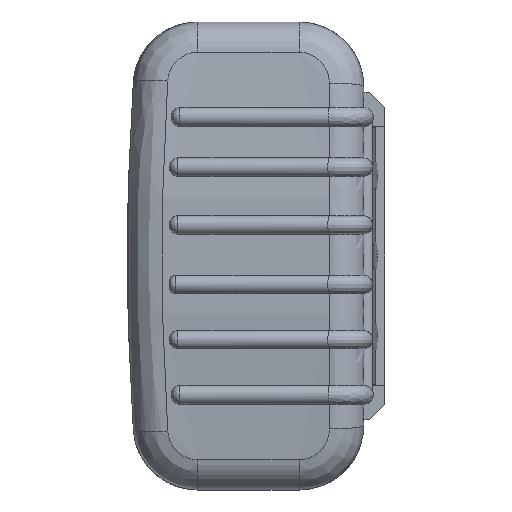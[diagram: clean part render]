
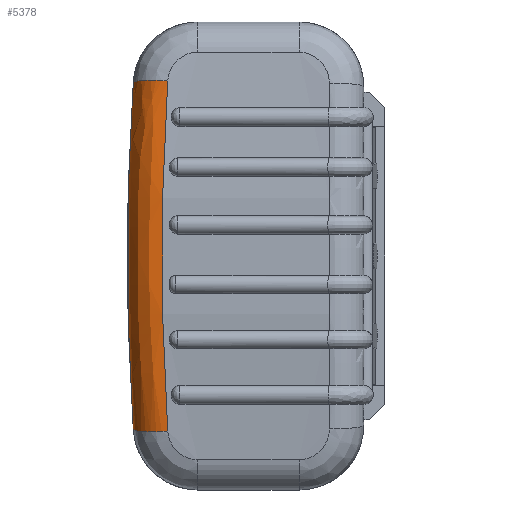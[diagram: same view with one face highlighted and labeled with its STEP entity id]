
A CAD part, left-side view. The second image highlights one B-rep face of the part: STEP entity #5378.
In plain terms, the highlighted free-form (B-spline) face has degree [3, 2] with [6, 3] control points.
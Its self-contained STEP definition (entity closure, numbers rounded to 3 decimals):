
#1044 = AXIS2_PLACEMENT_3D ( 'NONE', #2788, #24007, #5949 ) ;
#1473 = CARTESIAN_POINT ( 'NONE',  ( 89.935, 54.311, -27.357 ) ) ;
#1520 = CARTESIAN_POINT ( 'NONE',  ( 81.965, 54.328, -26.823 ) ) ;
#1606 = CARTESIAN_POINT ( 'NONE',  ( 88.505, 45.446, -40.548 ) ) ;
#1626 = EDGE_CURVE ( 'NONE', #34814, #19353, #29477, .T. ) ;
#2545 = ORIENTED_EDGE ( 'NONE', *, *, #34587, .F. ) ;
#2788 = CARTESIAN_POINT ( 'NONE',  ( 80.55, 45.446, -39.698 ) ) ;
#4172 = CARTESIAN_POINT ( 'NONE',  ( 80.55, 53.428, 40.234 ) ) ;
#4308 = CARTESIAN_POINT ( 'NONE',  ( 89.95, 46.334, -27.032 ) ) ;
#5378 = ADVANCED_FACE ( 'NONE', ( #11125 ), #38544, .T. ) ;
#5949 = DIRECTION ( 'NONE',  ( 0.994, 0., -0.106 ) ) ;
#7666 = ORIENTED_EDGE ( 'NONE', *, *, #20020, .T. ) ;
#10390 = CARTESIAN_POINT ( 'NONE',  ( 83.368, 55.225, 0. ) ) ;
#10533 = CARTESIAN_POINT ( 'NONE',  ( 91.383, 47.219, 0. ) ) ;
#11125 = FACE_OUTER_BOUND ( 'NONE', #38227, .T. ) ;
#13418 = CARTESIAN_POINT ( 'NONE',  ( 80.55, 53.428, -40.234 ) ) ;
#13544 = CARTESIAN_POINT ( 'NONE',  ( 88.505, 45.446, 40.548 ) ) ;
#14436 = CARTESIAN_POINT ( 'NONE',  ( 88.505, 45.446, 40.548 ) ) ;
#14517 = CARTESIAN_POINT ( 'NONE',  ( 88.449, 53.371, 41.074 ) ) ;
#14564 = CARTESIAN_POINT ( 'NONE',  ( 80.55, 53.428, 40.234 ) ) ;
#14634 = CARTESIAN_POINT ( 'NONE',  ( 89.95, 46.334, 27.032 ) ) ;
#14818 = CARTESIAN_POINT ( 'NONE',  ( 90.667, 54.777, 13.695 ) ) ;
#14950 = CARTESIAN_POINT ( 'NONE',  ( 82.667, 54.777, 13.411 ) ) ;
#15029 = CARTESIAN_POINT ( 'NONE',  ( 90.667, 46.777, -13.516 ) ) ;
#15079 = CARTESIAN_POINT ( 'NONE',  ( 90.667, 54.777, -13.695 ) ) ;
#15190 = CARTESIAN_POINT ( 'NONE',  ( 82.667, 54.777, -13.411 ) ) ;
#15277 = CARTESIAN_POINT ( 'NONE',  ( 89.95, 46.334, -27.032 ) ) ;
#15581 = CARTESIAN_POINT ( 'NONE',  ( 80.55, 53.428, -40.234 ) ) ;
#15661 = CARTESIAN_POINT ( 'NONE',  ( 88.449, 53.371, -41.074 ) ) ;
#15792 = B_SPLINE_CURVE_WITH_KNOTS ( 'NONE', 3,
 ( #25448, #4308, #10533, #31419, #13544 ),
 .UNSPECIFIED., .F., .F.,
 ( 4, 1, 4 ),
 ( 0., 0.041, 0.081 ),
 .UNSPECIFIED. ) ;
#17342 = VERTEX_POINT ( 'NONE', #26790 ) ;
#19353 = VERTEX_POINT ( 'NONE', #27704 ) ;
#20020 = EDGE_CURVE ( 'NONE', #23182, #17342, #37745, .T. ) ;
#21370 = EDGE_CURVE ( 'NONE', #23182, #34814, #15792, .T. ) ;
#23182 = VERTEX_POINT ( 'NONE', #24385 ) ;
#23778 = CARTESIAN_POINT ( 'NONE',  ( 89.935, 54.311, 27.357 ) ) ;
#23825 = CARTESIAN_POINT ( 'NONE',  ( 81.965, 54.328, 26.823 ) ) ;
#23902 = CARTESIAN_POINT ( 'NONE',  ( 90.667, 46.777, 13.516 ) ) ;
#24007 = DIRECTION ( 'NONE',  ( 0.106, 0.067, 0.992 ) ) ;
#24347 = DIRECTION ( 'NONE',  ( 0.994, 0., 0.106 ) ) ;
#24385 = CARTESIAN_POINT ( 'NONE',  ( 88.505, 45.446, -40.548 ) ) ;
#24443 = DIRECTION ( 'NONE',  ( -0.106, -0.067, 0.992 ) ) ;
#24481 = CARTESIAN_POINT ( 'NONE',  ( 80.55, 45.446, 39.698 ) ) ;
#25448 = CARTESIAN_POINT ( 'NONE',  ( 88.505, 45.446, -40.548 ) ) ;
#26790 = CARTESIAN_POINT ( 'NONE',  ( 80.55, 53.428, -40.234 ) ) ;
#27129 = ORIENTED_EDGE ( 'NONE', *, *, #21370, .F. ) ;
#27324 = AXIS2_PLACEMENT_3D ( 'NONE', #24481, #24443, #24347 ) ;
#27704 = CARTESIAN_POINT ( 'NONE',  ( 80.55, 53.428, 40.234 ) ) ;
#29477 = CIRCLE ( 'NONE', #27324, 8. ) ;
#30125 = CARTESIAN_POINT ( 'NONE',  ( 88.505, 45.446, 40.548 ) ) ;
#31294 = CARTESIAN_POINT ( 'NONE',  ( 81.965, 54.328, -26.822 ) ) ;
#31419 = CARTESIAN_POINT ( 'NONE',  ( 89.95, 46.334, 27.032 ) ) ;
#34161 = CARTESIAN_POINT ( 'NONE',  ( 81.965, 54.328, 26.822 ) ) ;
#34587 = EDGE_CURVE ( 'NONE', #19353, #17342, #38066, .T. ) ;
#34814 = VERTEX_POINT ( 'NONE', #30125 ) ;
#36559 = ORIENTED_EDGE ( 'NONE', *, *, #1626, .F. ) ;
#37745 = CIRCLE ( 'NONE', #1044, 8. ) ;
#38066 = B_SPLINE_CURVE_WITH_KNOTS ( 'NONE', 3,
 ( #4172, #34161, #10390, #31294, #13418 ),
 .UNSPECIFIED., .F., .F.,
 ( 4, 1, 4 ),
 ( 0., 0.04, 0.08 ),
 .UNSPECIFIED. ) ;
#38227 = EDGE_LOOP ( 'NONE', ( #7666, #2545, #36559, #27129 ) ) ;
#38544 =( BOUNDED_SURFACE ( )  B_SPLINE_SURFACE ( 3, 2, ( 
 ( #15581, #15661, #1606 ),
 ( #1520, #1473, #15277 ),
 ( #15190, #15079, #15029 ),
 ( #14950, #14818, #23902 ),
 ( #23825, #23778, #14634 ),
 ( #14564, #14517, #14436 ) ),
 .UNSPECIFIED., .F., .F., .F. ) 
 B_SPLINE_SURFACE_WITH_KNOTS ( ( 4, 2, 4 ),
 ( 3, 3 ),
 ( 0., 0.04, 0.079 ),
 ( 0., 1. ),
 .UNSPECIFIED. ) 
 GEOMETRIC_REPRESENTATION_ITEM ( )  RATIONAL_B_SPLINE_SURFACE ( (
 ( 1., 0.71, 1.),
 ( 1., 0.708, 1.),
 ( 1., 0.707, 1.),
 ( 1., 0.707, 1.),
 ( 1., 0.708, 1.),
 ( 1., 0.71, 1.) ) ) 
 REPRESENTATION_ITEM ( '' )  SURFACE ( )  );
